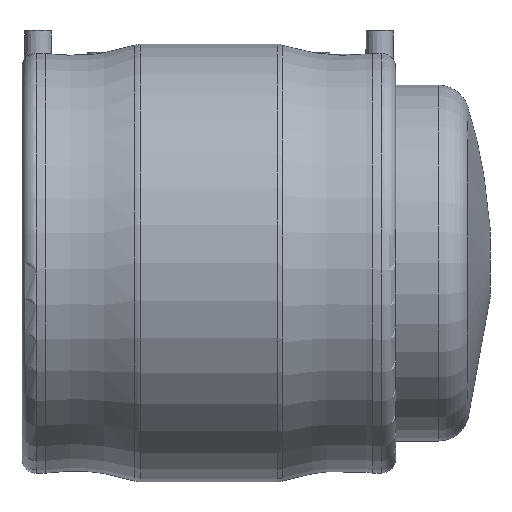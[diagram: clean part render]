
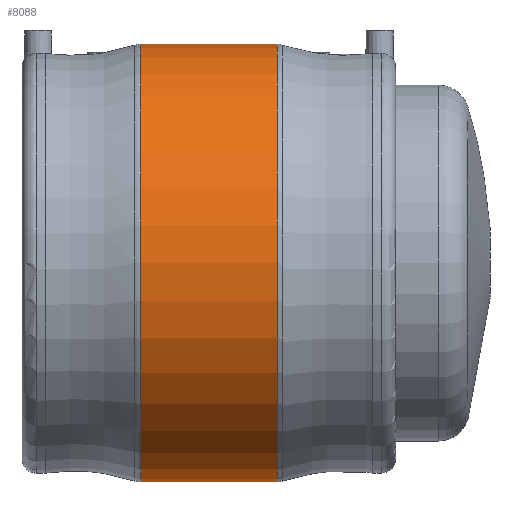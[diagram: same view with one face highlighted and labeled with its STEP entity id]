
A CAD part, front view. The second image highlights one B-rep face of the part: STEP entity #8088.
In plain terms, the highlighted cylindrical face has radius 123 mm (diameter 246 mm), a full revolution.
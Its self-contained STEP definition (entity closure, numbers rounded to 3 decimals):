
#1229=CYLINDRICAL_SURFACE('',#8736,123.);
#1416=ORIENTED_EDGE('',*,*,#4042,.T.);
#1417=ORIENTED_EDGE('',*,*,#4043,.T.);
#4042=EDGE_CURVE('',#5361,#5361,#6122,.F.);
#4043=EDGE_CURVE('',#5362,#5362,#6123,.T.);
#5361=VERTEX_POINT('',#11611);
#5362=VERTEX_POINT('',#11613);
#6122=CIRCLE('',#8737,123.);
#6123=CIRCLE('',#8738,123.);
#6764=EDGE_LOOP('',(#1416));
#6765=EDGE_LOOP('',(#1417));
#7404=FACE_BOUND('',#6764,.T.);
#7405=FACE_BOUND('',#6765,.T.);
#8088=ADVANCED_FACE('',(#7404,#7405),#1229,.T.);
#8736=AXIS2_PLACEMENT_3D('',#11609,#9706,#9707);
#8737=AXIS2_PLACEMENT_3D('',#11610,#9708,#9709);
#8738=AXIS2_PLACEMENT_3D('',#11612,#9710,#9711);
#9706=DIRECTION('',(-1.,0.,0.));
#9707=DIRECTION('',(0.,0.,1.));
#9708=DIRECTION('',(1.,0.,0.));
#9709=DIRECTION('',(0.,0.,-1.));
#9710=DIRECTION('',(1.,0.,0.));
#9711=DIRECTION('',(0.,0.,-1.));
#11609=CARTESIAN_POINT('',(-60.,0.,0.));
#11610=CARTESIAN_POINT('',(38.344,0.,0.));
#11611=CARTESIAN_POINT('',(38.344,0.,-123.));
#11612=CARTESIAN_POINT('',(-38.344,0.,0.));
#11613=CARTESIAN_POINT('',(-38.344,0.,-123.));
